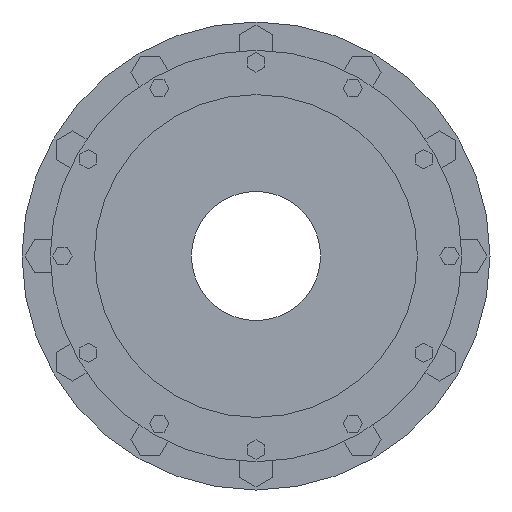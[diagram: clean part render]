
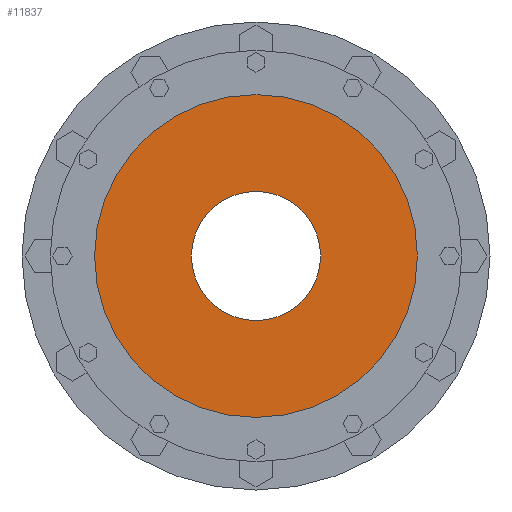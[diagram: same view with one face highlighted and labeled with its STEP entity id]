
A CAD part, left-side view. The second image highlights one B-rep face of the part: STEP entity #11837.
In plain terms, the highlighted planar face has unit normal (-1, 0, 0) as drawn and (1, 0, 0) by its records, which use the part's own axes.
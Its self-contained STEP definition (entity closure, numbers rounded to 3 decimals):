
#11661=CARTESIAN_POINT('',(-10.,0.,0.));
#11662=DIRECTION('',(1.,0.,0.));
#11663=DIRECTION('',(0.,1.,0.));
#11664=AXIS2_PLACEMENT_3D('',#11661,#11662,#11663);
#11671=CARTESIAN_POINT('',(-10.,0.,0.));
#11672=DIRECTION('',(-1.,0.,0.));
#11673=DIRECTION('',(0.,1.,0.));
#11674=AXIS2_PLACEMENT_3D('',#11671,#11672,#11673);
#11676=CARTESIAN_POINT('',(-10.,0.,0.));
#11677=DIRECTION('',(1.,0.,0.));
#11678=DIRECTION('',(0.,1.,0.));
#11679=AXIS2_PLACEMENT_3D('',#11676,#11677,#11678);
#11755=CARTESIAN_POINT('',(-10.,0.,0.));
#11756=DIRECTION('',(1.,0.,0.));
#11757=DIRECTION('',(0.,-1.,0.));
#11758=AXIS2_PLACEMENT_3D('',#11755,#11756,#11757);
#11782=CARTESIAN_POINT('',(-10.,200.,0.));
#11784=VERTEX_POINT('',#11782);
#11786=CARTESIAN_POINT('',(-10.,-200.,0.));
#11788=VERTEX_POINT('',#11786);
#11793=CARTESIAN_POINT('',(-10.,80.,0.));
#11794=CARTESIAN_POINT('',(-10.,-80.,0.));
#11795=VERTEX_POINT('',#11793);
#11796=VERTEX_POINT('',#11794);
#11821=CARTESIAN_POINT('',(-10.,0.,0.));
#11822=DIRECTION('',(1.,0.,0.));
#11823=DIRECTION('',(0.,-1.,0.));
#11824=AXIS2_PLACEMENT_3D('',#11821,#11822,#11823);
#11825=PLANE('',#11824);
#11827=ORIENTED_EDGE('',*,*,#11826,.T.);
#11829=ORIENTED_EDGE('',*,*,#11828,.F.);
#11830=EDGE_LOOP('',(#11827,#11829));
#11831=FACE_OUTER_BOUND('',#11830,.F.);
#11832=ORIENTED_EDGE('',*,*,#11810,.T.);
#11834=ORIENTED_EDGE('',*,*,#11833,.T.);
#11835=EDGE_LOOP('',(#11832,#11834));
#11836=FACE_BOUND('',#11835,.F.);
#11837=ADVANCED_FACE('',(#11831,#11836),#11825,.T.);
#11665=CIRCLE('',#11664,80.);
#11675=CIRCLE('',#11674,200.);
#11680=CIRCLE('',#11679,200.);
#11759=CIRCLE('',#11758,80.);
#11810=EDGE_CURVE('',#11795,#11796,#11665,.T.);
#11826=EDGE_CURVE('',#11784,#11788,#11675,.T.);
#11828=EDGE_CURVE('',#11784,#11788,#11680,.T.);
#11833=EDGE_CURVE('',#11796,#11795,#11759,.T.);
